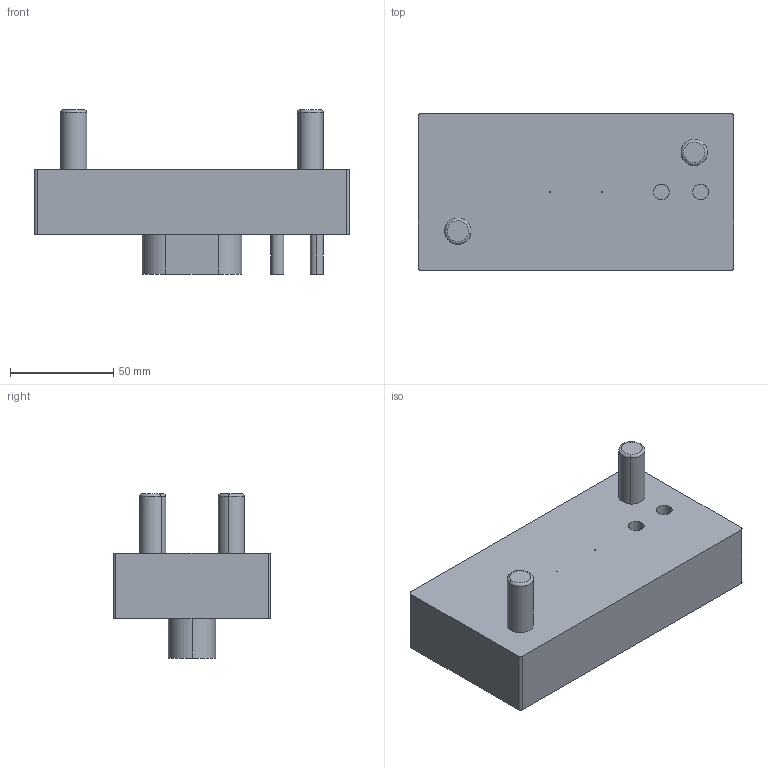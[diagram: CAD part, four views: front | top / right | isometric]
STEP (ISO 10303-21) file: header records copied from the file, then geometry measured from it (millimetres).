
FILE_DESCRIPTION (( 'STEP AP214' ), '1' );
FILE_NAME ('PUNCHPLATE ASSEMBLY (2).STEP', '2020-05-25T15:55:54', ( '' ), ( '' ), 'SwSTEP 2.0', 'SolidWorks 2020', '' );
FILE_SCHEMA (( 'AUTOMOTIVE_DESIGN' ));
Length unit declared in the file: inch
Products named in the file (6): PUNCH FOR .25; PUNCHPLATE; PUNCHPLATE ASSEMBLY (2); DOWEL D0.25; DOWEL D0.5; PUNCH
Assembly tree (8 placements, depth 2):
  PUNCHPLATE ASSEMBLY (2)
    PUNCHPLATE
    PUNCH FOR .25  x2
    DOWEL D0.25  x2
    PUNCH
    DOWEL D0.5  x2
Bounding box: 152.4 x 76.2 x 79.38 mm (x, y, z)
Volume: 394619.8 mm3; surface area: 51913.3 mm2
Topology: 8 solids, 8 shells, 87 faces, 179 edges, 118 vertices
Faces by surface type: cylinder 51, plane 32, torus 4
Entity records: 2271 total; most frequent: DIRECTION 403, CARTESIAN_POINT 332, ORIENTED_EDGE 302, AXIS2_PLACEMENT_3D 171, EDGE_CURVE 151, VERTEX_POINT 100, EDGE_LOOP 91, CIRCLE 90
